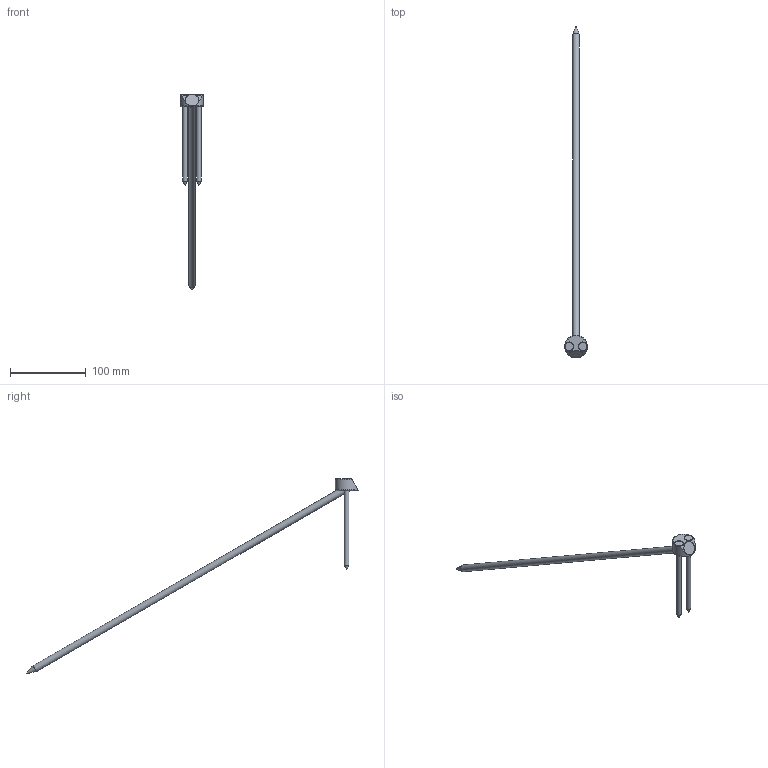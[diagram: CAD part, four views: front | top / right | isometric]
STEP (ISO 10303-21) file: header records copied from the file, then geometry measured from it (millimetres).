
FILE_DESCRIPTION(/* description */ ('Unknown'),/* implementation_level */ '2;1');
FILE_NAME(/* name */ 'T-JOINT_D30_W30_2xSK 6x120_1xSK 10x500',/* time_stamp */ '2022-02-03T10:07:24+01:00',/* author */ ('Unknown'),/* organization */ ('Unknown'),/* preprocessor_version */ 'ST-DEVELOPER v16.7',/* originating_system */ 'Solid Edge',/* authorisation */ 'Unknown');
FILE_SCHEMA (('AUTOMOTIVE_DESIGN {1 0 10303 214 3 1 1}'));
Length unit declared in the file: millimetre
Products named in the file (4): T-Joint_D30_W30_2xSK6x120_1xSK10x500; T-Joint_D30_W30; SK Schraube 6x120_ohne_Gewinde; SK Schraube 10x500_ohne_Gewinde_22042020
Assembly tree (4 placements, depth 2):
  T-Joint_D30_W30_2xSK6x120_1xSK10x500
    T-Joint_D30_W30
    SK Schraube 6x120_ohne_Gewinde  x2
    SK Schraube 10x500_ohne_Gewinde_22042020
Bounding box: 29.76 x 437.9 x 258.21 mm (x, y, z)
Volume: 45843.7 mm3; surface area: 22559.5 mm2
Topology: 4 solids, 4 shells, 32 faces, 71 edges, 43 vertices
Faces by surface type: cylinder 11, cone 10, plane 9, torus 2
Full cylindrical faces by diameter (mm): 6 x2, 6.2 x2, 9 x1, 10 x1, 10.5 x1, 11 x2, 18 x1
Entity records: 744 total; most frequent: CARTESIAN_POINT 136, DIRECTION 122, ORIENTED_EDGE 76, AXIS2_PLACEMENT_3D 60, EDGE_LOOP 45, FACE_BOUND 45, EDGE_CURVE 38, VERTEX_POINT 31
